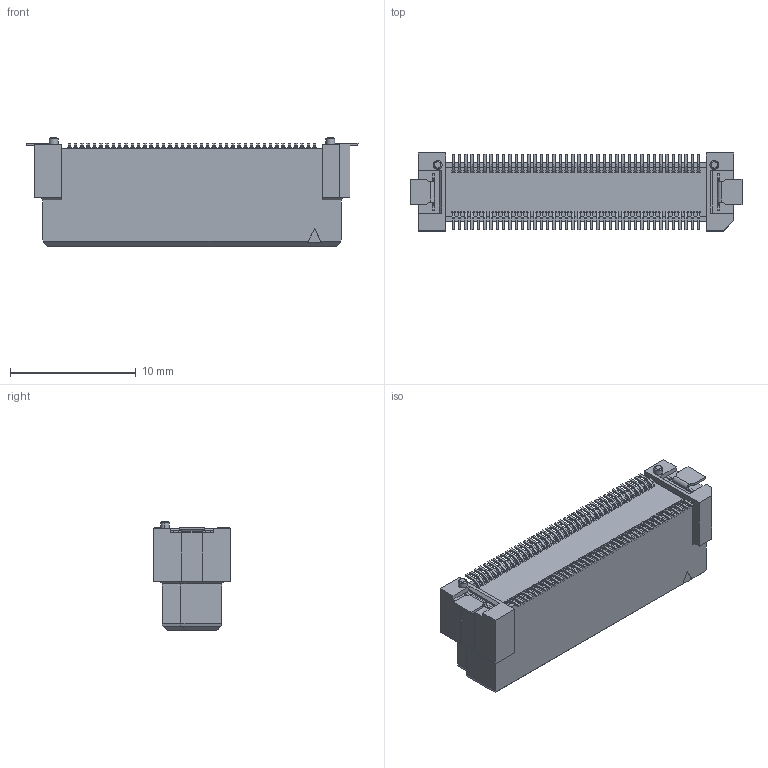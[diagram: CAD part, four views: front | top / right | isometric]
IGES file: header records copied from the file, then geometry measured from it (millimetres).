
Start section: Elysium IGES Interface
Global section: file name: 80HC:\Users\1502\Desktop\DT_webリニューアル\プラグ\ボス有\P3D070_DT11-080S-10-T.igs; native system: Creo Elements/Direct Modeling 19.0F  14-Feb-2017; preprocessor: Creo Element/Direct IGES_3D V2.2; author: Unknown; organization: Unknown; date: 20170811.104723; units: millimetre
Bounding box: 26.4 x 6.2 x 8.63 mm (x, y, z)
Volume: 808.6 mm3; surface area: 1394 mm2
Topology: 1 solids, 1 shells, 2861 faces, 7742 edges, 5048 vertices
Faces by surface type: bspline 2861
